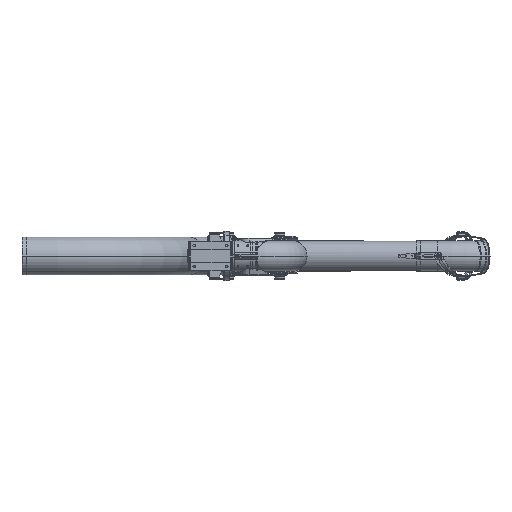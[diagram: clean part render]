
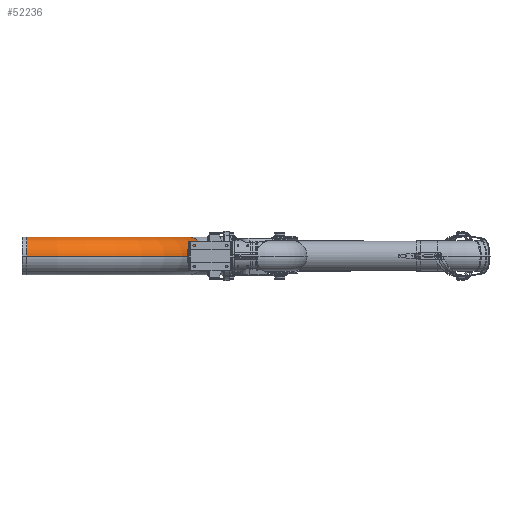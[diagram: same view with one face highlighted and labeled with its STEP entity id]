
A CAD part, left-side view. The second image highlights one B-rep face of the part: STEP entity #52236.
In plain terms, the highlighted toroidal (fillet/blend) face has major radius 848.528 mm and minor radius 100.25 mm.
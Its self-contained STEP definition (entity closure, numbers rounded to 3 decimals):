
#51958=CARTESIAN_POINT('',(0.,848.528,-848.528));
#51959=DIRECTION('',(0.,0.,-1.));
#51960=DIRECTION('',(0.,-1.,0.));
#51961=AXIS2_PLACEMENT_3D('',#51958,#51959,#51960);
#51973=CARTESIAN_POINT('',(0.,0.,0.));
#51974=DIRECTION('',(0.,1.,0.));
#51975=DIRECTION('',(0.,0.,-1.));
#51976=AXIS2_PLACEMENT_3D('',#51973,#51974,#51975);
#51981=CARTESIAN_POINT('',(0.,0.,-848.528));
#51982=DIRECTION('',(-1.,0.,0.));
#51983=DIRECTION('',(0.,0.,1.));
#51984=AXIS2_PLACEMENT_3D('',#51981,#51982,#51983);
#52043=CARTESIAN_POINT('',(0.,0.,-848.528));
#52044=DIRECTION('',(-1.,0.,0.));
#52045=DIRECTION('',(0.,0.,1.));
#52046=AXIS2_PLACEMENT_3D('',#52043,#52044,#52045);
#52178=CARTESIAN_POINT('',(0.,0.,100.25));
#52179=CARTESIAN_POINT('',(0.,0.,-100.25));
#52180=VERTEX_POINT('',#52178);
#52181=VERTEX_POINT('',#52179);
#52182=CARTESIAN_POINT('',(0.,948.778,-848.528));
#52183=CARTESIAN_POINT('',(0.,748.278,
-848.528));
#52184=VERTEX_POINT('',#52182);
#52185=VERTEX_POINT('',#52183);
#52222=CARTESIAN_POINT('',(0.,0.,-848.528));
#52223=DIRECTION('',(-1.,0.,0.));
#52224=DIRECTION('',(0.,0.,-1.));
#52225=AXIS2_PLACEMENT_3D('',#52222,#52223,#52224);
#52226=TOROIDAL_SURFACE('',#52225,848.528,100.25);
#52228=ORIENTED_EDGE('',*,*,#52227,.F.);
#52230=ORIENTED_EDGE('',*,*,#52229,.T.);
#52231=ORIENTED_EDGE('',*,*,#52211,.T.);
#52233=ORIENTED_EDGE('',*,*,#52232,.F.);
#52234=EDGE_LOOP('',(#52228,#52230,#52231,#52233));
#52235=FACE_OUTER_BOUND('',#52234,.F.);
#51962=CIRCLE('',#51961,100.25);
#51977=CIRCLE('',#51976,100.25);
#51985=CIRCLE('',#51984,748.278);
#52047=CIRCLE('',#52046,948.778);
#52211=EDGE_CURVE('',#52185,#52184,#51962,.T.);
#52227=EDGE_CURVE('',#52181,#52180,#51977,.T.);
#52229=EDGE_CURVE('',#52181,#52185,#51985,.T.);
#52232=EDGE_CURVE('',#52180,#52184,#52047,.T.);
#52236=ADVANCED_FACE('',(#52235),#52226,.T.);
